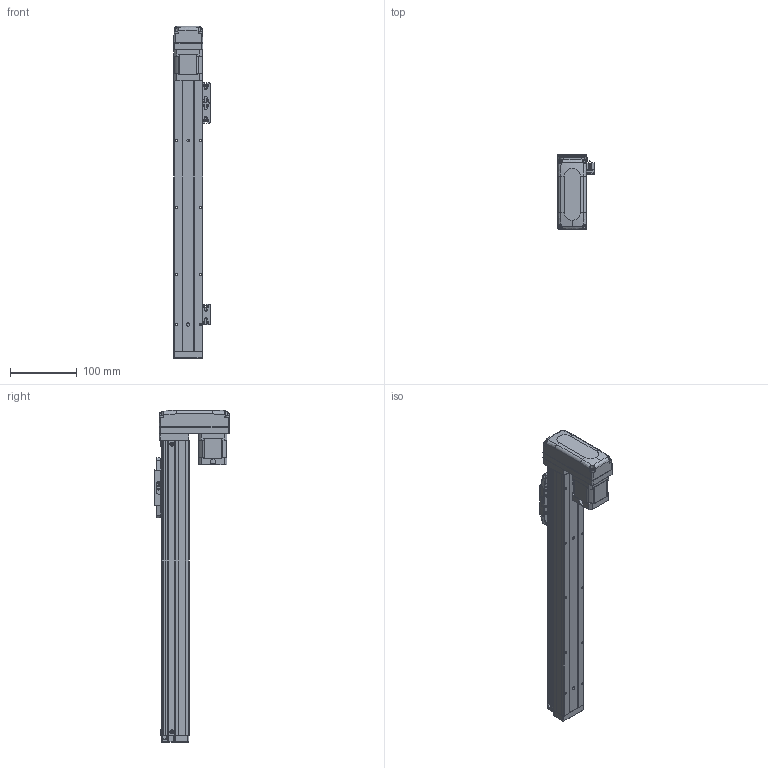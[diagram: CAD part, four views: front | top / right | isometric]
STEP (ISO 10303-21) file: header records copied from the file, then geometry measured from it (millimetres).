
FILE_DESCRIPTION (( 'STEP AP203' ), '1' );
FILE_NAME ('GTH4-300-BM-B42-C4.step', '2023-02-14T00:20:58', ( '微软用户' ), ( '微软中国' ), 'SwSTEP 2.0', 'SolidWorks 2020', '' );
FILE_SCHEMA (( 'CONFIG_CONTROL_DESIGN' ));
Length unit declared in the file: millimetre
Products named in the file (19): GBT 70.1-M2.5×6; GTH4-300-BM-B42-C4; BTH50-028; BTH40-004; BTH50-023; BTH40-001-50_BTH40-001-300; BTH40-013; BTH50-024; GBT 70.3-M3℅6; BTH40-003; GBT 70.1-M3℅6; BTH40-027-1; BTH40-006; GBT96.1-2002 3×0.8; BTH50-026; BTH-M3X5X6; BTH40-022; 42CM06; GBT70.1-2000 M3×16
Assembly tree (47 placements, depth 2):
  GTH4-300-BM-B42-C4
    BTH40-001-50_BTH40-001-300
    BTH40-003
    BTH40-006
    BTH-M3X5X6  x8
    GBT70.1-2000 M3×16  x4
    BTH50-028  x2
    BTH50-023  x3
    BTH50-024  x3
    GBT 70.1-M3℅6  x6
    GBT96.1-2002 3×0.8  x6
    BTH40-022
    GBT 70.1-M2.5×6  x2
    BTH40-004
    BTH40-013
    GBT 70.3-M3℅6  x4
    BTH40-027-1
    BTH50-026
    42CM06
Bounding box: 55.2 x 112 x 496 mm (x, y, z)
Volume: 930024.8 mm3; surface area: 198428.4 mm2
Topology: 56 solids, 56 shells, 3331 faces, 7760 edges, 4638 vertices
Faces by surface type: cone 1508, plane 1076, cylinder 569, torus 124, bspline 42, sphere 12
Entity records: 77742 total; most frequent: CARTESIAN_POINT 14017, DIRECTION 13817, ORIENTED_EDGE 12166, EDGE_CURVE 6083, AXIS2_PLACEMENT_3D 5301, VERTEX_POINT 3625, VECTOR 3215, LINE 3215
